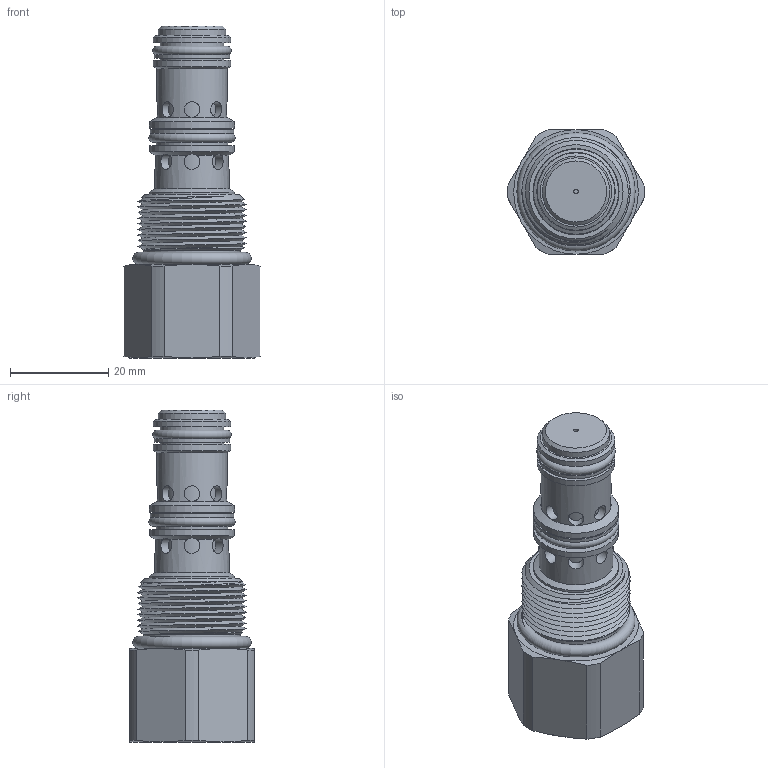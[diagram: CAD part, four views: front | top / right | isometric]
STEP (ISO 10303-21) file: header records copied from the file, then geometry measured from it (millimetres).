
FILE_DESCRIPTION(/* description */ (''),/* implementation_level */ '2;1');
FILE_NAME(/* name */ 'P:\EARS\EAR16xx\EAR1683 - catalog pages changes\Group1_Distribution 11_22_22\RTeck Agency_Tom\_SolidModels\HDFPDE00.stp',/* time_stamp */ '2022-12-13T11:17:01-06:00',/* author */ ('Michael'),/* organization */ (''),/* preprocessor_version */ 'ST-DEVELOPER v17.2',/* originating_system */ 'Autodesk Inventor 2019',/* authorisation */ '');
FILE_SCHEMA (('AUTOMOTIVE_DESIGN { 1 0 10303 214 3 1 1 }'));
Length unit declared in the file: inch
Products named in the file (1): HDFPDE00
Bounding box: 27.82 x 25.4 x 67.61 mm (x, y, z)
Volume: 21165 mm3; surface area: 8137.5 mm2
Topology: 1 solids, 2 shells, 134 faces, 372 edges, 266 vertices
Faces by surface type: cylinder 64, plane 33, cone 23, torus 11, bspline 3
Full cylindrical faces by diameter (mm): 0.914 x1, 3.175 x16, 7.556 x1, 9.52 x1, 9.525 x1, 9.588 x1, 10.833 x1, 12.992 x3, 13.716 x1, 14.275 x1, 14.592 x3, 15.088 x1, 15.392 x1, 15.761 x2, 16.967 x1, 17.323 x3, 17.399 x1, 19.621 x2
Entity records: 7693 total; most frequent: CARTESIAN_POINT 4125, ORIENTED_EDGE 750, DIRECTION 651, EDGE_CURVE 375, AXIS2_PLACEMENT_3D 290, VERTEX_POINT 266, EDGE_LOOP 165, CIRCLE 158
